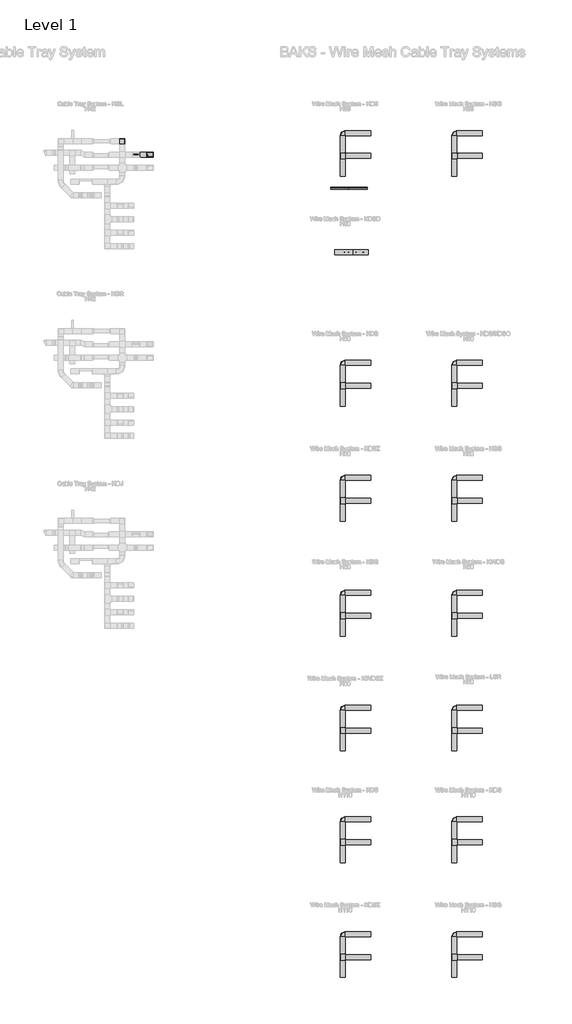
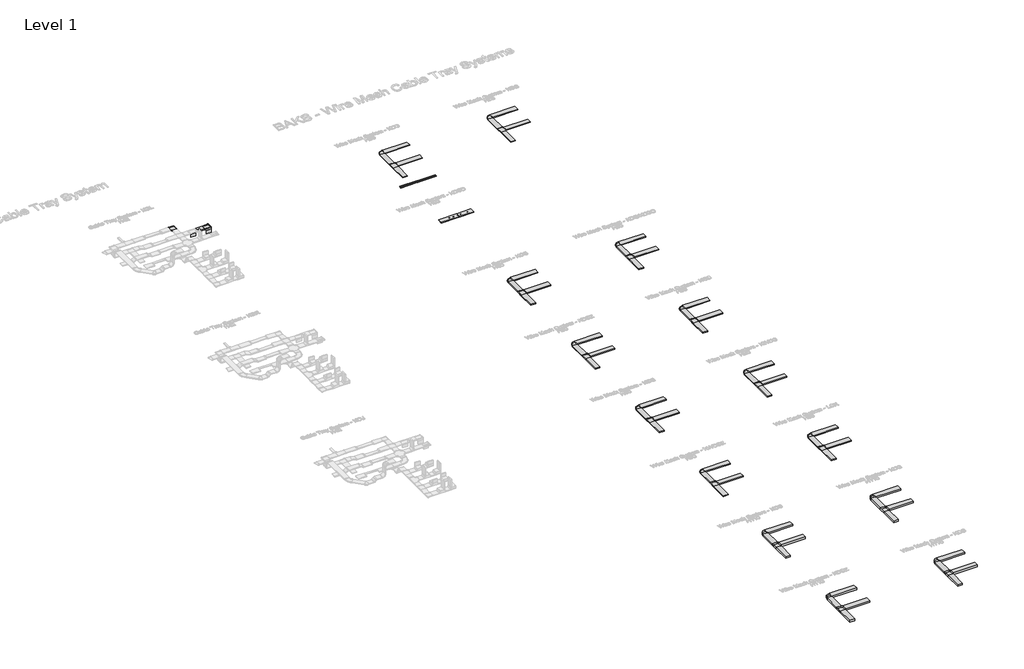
# One storey, part 8 of 32: 65 cable carrier segments, 38 cable carrier fittings.
"""IFC4 building model written with IfcOpenShell, lengths in millimetres."""

from ifc_helpers import new_model, si_unit, frame, origin, origin_with_axes, place, context, project, spatial, polyline, outline, extrude, transform, mapped, element, save
from components import cable_carrier_fitting_400b97e6, cable_carrier_fitting_717dd42d, cable_carrier_fitting_b6827417, cable_carrier_fitting_ce1f183e, cable_carrier_fitting_d664f731, cable_carrier_fitting_2209817d, cable_carrier_fitting_5924018d, cable_carrier_fitting_5b9ae738, cable_carrier_fitting_cf50b9aa, cable_carrier_fitting_433d2681, cable_carrier_fitting_14ea2eab, lzs35_h35_88049798, lzs50_h35_31d5a90a

model = new_model("IFC4")

# Units and contexts
model_context = context("Model", 3, world=origin())
ifc_project = project(units=[si_unit("LENGTHUNIT", "METRE", prefix="MILLI")], contexts=[model_context])

# Site, building, storey
site = spatial("IfcSite", under=ifc_project)
building = spatial("IfcBuilding", under=site)
storey = spatial("IfcBuildingStorey", under=building, Name="Level 1", Elevation=0.0)

# Cable carrier fittings
placement = place(None, origin())
cable_carrier_fitting_shape = cable_carrier_fitting_400b97e6(model_context)
element("IfcCableCarrierFitting", 1, ObjectType="BAKS_Vertical elbow left : KRLBJ_H42", at=placement, inside=storey, context=model_context, shape_type="MappedRepresentation", body=[
    mapped(cable_carrier_fitting_shape, transform((-6208.1670538, 68580.8714214, 0.0), x_axis=(1.0, 0.0, 0.0), y_axis=(0.0, 1.0, 0.0), z_axis=(0.0, 0.0, 1.0))),
])
cable_carrier_fitting_2_shape = cable_carrier_fitting_717dd42d(model_context)
element("IfcCableCarrierFitting", 2, ObjectType="BAKS_Horizontal bend : KKBL/KKMBL_H42", at=placement, inside=storey, context=model_context, shape_type="MappedRepresentation", body=[
    mapped(cable_carrier_fitting_2_shape, transform((-7643.1670538, 69380.8714214, 0.0), x_axis=(0.0, 1.0, 0.0), y_axis=(-1.0, 0.0, 0.0), z_axis=(0.0, 0.0, 1.0))),
])
cable_carrier_fitting_3_shape = cable_carrier_fitting_b6827417(model_context)
element("IfcCableCarrierFitting", 3, ObjectType="BAKS_Mesh horizontal bend : KKSZ_H35", at=placement, inside=storey, context=model_context, shape_type="MappedRepresentation", body=[
    mapped(cable_carrier_fitting_3_shape, transform((12269.4167945, 69870.1887189, 17.5), x_axis=(-1.0, 0.0, 0.0), y_axis=(0.0, -1.0, 0.0), z_axis=(0.0, 0.0, 1.0))),
])
element("IfcCableCarrierFitting", 4, ObjectType="BAKS_Mesh horizontal bend : KKSZ_H35", at=placement, inside=storey, context=model_context, shape_type="MappedRepresentation", body=[
    mapped(cable_carrier_fitting_3_shape, transform((5569.4167945, 69870.1887189, 17.5), x_axis=(-1.0, 0.0, 0.0), y_axis=(0.0, -1.0, 0.0), z_axis=(0.0, 0.0, 1.0))),
])
cable_carrier_fitting_4_shape = cable_carrier_fitting_ce1f183e(model_context)
element("IfcCableCarrierFitting", 5, ObjectType="BAKS_Mesh horizontal bend : KKSZ_H60", at=placement, inside=storey, context=model_context, shape_type="MappedRepresentation", body=[
    mapped(cable_carrier_fitting_4_shape, transform((5569.4167945, 56070.1887189, 30.0), x_axis=(-1.0, 0.0, 0.0), y_axis=(0.0, -1.0, 0.0), z_axis=(0.0, 0.0, 1.0))),
])
element("IfcCableCarrierFitting", 6, ObjectType="BAKS_Mesh horizontal bend : KKSZ_H60", at=placement, inside=storey, context=model_context, shape_type="MappedRepresentation", body=[
    mapped(cable_carrier_fitting_4_shape, transform((12269.4167945, 49170.1887189, 30.0), x_axis=(-1.0, 0.0, 0.0), y_axis=(0.0, -1.0, 0.0), z_axis=(0.0, 0.0, 1.0))),
])
element("IfcCableCarrierFitting", 7, ObjectType="BAKS_Mesh horizontal bend : KKSZ_H60", at=placement, inside=storey, context=model_context, shape_type="MappedRepresentation", body=[
    mapped(cable_carrier_fitting_4_shape, transform((5569.4167945, 42270.1887189, 30.0), x_axis=(-1.0, 0.0, 0.0), y_axis=(0.0, -1.0, 0.0), z_axis=(0.0, 0.0, 1.0))),
])
element("IfcCableCarrierFitting", 8, ObjectType="BAKS_Mesh horizontal bend : KKSZ_H60", at=placement, inside=storey, context=model_context, shape_type="MappedRepresentation", body=[
    mapped(cable_carrier_fitting_4_shape, transform((12269.4167945, 35370.1887189, 30.0), x_axis=(-1.0, 0.0, 0.0), y_axis=(0.0, -1.0, 0.0), z_axis=(0.0, 0.0, 1.0))),
])
element("IfcCableCarrierFitting", 9, ObjectType="BAKS_Mesh horizontal bend : KKSZ_H60", at=placement, inside=storey, context=model_context, shape_type="MappedRepresentation", body=[
    mapped(cable_carrier_fitting_4_shape, transform((5569.4167945, 35370.1887189, 30.0), x_axis=(-1.0, 0.0, 0.0), y_axis=(0.0, -1.0, 0.0), z_axis=(0.0, 0.0, 1.0))),
])
element("IfcCableCarrierFitting", 10, ObjectType="BAKS_Mesh horizontal bend : KKSZ_H60", at=placement, inside=storey, context=model_context, shape_type="MappedRepresentation", body=[
    mapped(cable_carrier_fitting_4_shape, transform((12269.4167945, 42270.1887189, 30.0), x_axis=(-1.0, 0.0, 0.0), y_axis=(0.0, -1.0, 0.0), z_axis=(0.0, 0.0, 1.0))),
])
element("IfcCableCarrierFitting", 11, ObjectType="BAKS_Mesh horizontal bend : KKSZ_H60", at=placement, inside=storey, context=model_context, shape_type="MappedRepresentation", body=[
    mapped(cable_carrier_fitting_4_shape, transform((5569.4167945, 49170.1887189, 30.0), x_axis=(-1.0, 0.0, 0.0), y_axis=(0.0, -1.0, 0.0), z_axis=(0.0, 0.0, 1.0))),
])
element("IfcCableCarrierFitting", 12, ObjectType="BAKS_Mesh horizontal bend : KKSZ_H60", at=placement, inside=storey, context=model_context, shape_type="MappedRepresentation", body=[
    mapped(cable_carrier_fitting_4_shape, transform((12269.4167945, 56070.1887189, 30.0), x_axis=(-1.0, 0.0, 0.0), y_axis=(0.0, -1.0, 0.0), z_axis=(0.0, 0.0, 1.0))),
])
cable_carrier_fitting_5_shape = cable_carrier_fitting_d664f731(model_context)
element("IfcCableCarrierFitting", 13, ObjectType="BAKS_Mesh horizontal bend : KKSZ_H110", at=placement, inside=storey, context=model_context, shape_type="MappedRepresentation", body=[
    mapped(cable_carrier_fitting_5_shape, transform((5569.4167945, 28670.1887189, 55.0), x_axis=(-1.0, 0.0, 0.0), y_axis=(0.0, -1.0, 0.0), z_axis=(0.0, 0.0, 1.0))),
])
element("IfcCableCarrierFitting", 14, ObjectType="BAKS_Mesh horizontal bend : KKSZ_H110", at=placement, inside=storey, context=model_context, shape_type="MappedRepresentation", body=[
    mapped(cable_carrier_fitting_5_shape, transform((12269.4167945, 28670.1887189, 55.0), x_axis=(-1.0, 0.0, 0.0), y_axis=(0.0, -1.0, 0.0), z_axis=(0.0, 0.0, 1.0))),
])
element("IfcCableCarrierFitting", 15, ObjectType="BAKS_Mesh horizontal bend : KKSZ_H110", at=placement, inside=storey, context=model_context, shape_type="MappedRepresentation", body=[
    mapped(cable_carrier_fitting_5_shape, transform((12269.4167945, 21770.1887189, 55.0), x_axis=(-1.0, 0.0, 0.0), y_axis=(0.0, -1.0, 0.0), z_axis=(0.0, 0.0, 1.0))),
])
element("IfcCableCarrierFitting", 16, ObjectType="BAKS_Mesh horizontal bend : KKSZ_H110", at=placement, inside=storey, context=model_context, shape_type="MappedRepresentation", body=[
    mapped(cable_carrier_fitting_5_shape, transform((5569.4167945, 21770.1887189, 55.0), x_axis=(-1.0, 0.0, 0.0), y_axis=(0.0, -1.0, 0.0), z_axis=(0.0, 0.0, 1.0))),
])
cable_carrier_fitting_6_shape = cable_carrier_fitting_2209817d(model_context)
element("IfcCableCarrierFitting", 17, ObjectType="BAKS_Mesh horizontal tee : TKSZ_H35", at=placement, inside=storey, context=model_context, shape_type="MappedRepresentation", body=[
    mapped(cable_carrier_fitting_6_shape, transform((5569.4167945, 68493.1012189, 17.5), x_axis=(0.0, 1.0, 0.0), y_axis=(-1.0, 0.0, 0.0), z_axis=(0.0, 0.0, 1.0))),
])
element("IfcCableCarrierFitting", 18, ObjectType="BAKS_Mesh horizontal tee : TKSZ_H35", at=placement, inside=storey, context=model_context, shape_type="MappedRepresentation", body=[
    mapped(cable_carrier_fitting_6_shape, transform((12269.4167945, 68493.1012189, 17.5), x_axis=(0.0, 1.0, 0.0), y_axis=(-1.0, 0.0, 0.0), z_axis=(0.0, 0.0, 1.0))),
])
cable_carrier_fitting_7_shape = cable_carrier_fitting_5924018d(model_context)
element("IfcCableCarrierFitting", 19, ObjectType="BAKS_Mesh horizontal tee : TKSZ_H60", at=placement, inside=storey, context=model_context, shape_type="MappedRepresentation", body=[
    mapped(cable_carrier_fitting_7_shape, transform((5569.4167945, 54693.1012189, 30.0), x_axis=(0.0, 1.0, 0.0), y_axis=(-1.0, 0.0, 0.0), z_axis=(0.0, 0.0, 1.0))),
])
element("IfcCableCarrierFitting", 20, ObjectType="BAKS_Mesh horizontal tee : TKSZ_H60", at=placement, inside=storey, context=model_context, shape_type="MappedRepresentation", body=[
    mapped(cable_carrier_fitting_7_shape, transform((12269.4167945, 54693.1012189, 30.0), x_axis=(0.0, 1.0, 0.0), y_axis=(-1.0, 0.0, 0.0), z_axis=(0.0, 0.0, 1.0))),
])
element("IfcCableCarrierFitting", 21, ObjectType="BAKS_Mesh horizontal tee : TKSZ_H60", at=placement, inside=storey, context=model_context, shape_type="MappedRepresentation", body=[
    mapped(cable_carrier_fitting_7_shape, transform((12269.4167945, 47793.1012189, 30.0), x_axis=(0.0, 1.0, 0.0), y_axis=(-1.0, 0.0, 0.0), z_axis=(0.0, 0.0, 1.0))),
])
element("IfcCableCarrierFitting", 22, ObjectType="BAKS_Mesh horizontal tee : TKSZ_H60", at=placement, inside=storey, context=model_context, shape_type="MappedRepresentation", body=[
    mapped(cable_carrier_fitting_7_shape, transform((5569.4167945, 47793.1012189, 30.0), x_axis=(0.0, 1.0, 0.0), y_axis=(-1.0, 0.0, 0.0), z_axis=(0.0, 0.0, 1.0))),
])
element("IfcCableCarrierFitting", 23, ObjectType="BAKS_Mesh horizontal tee : TKSZ_H60", at=placement, inside=storey, context=model_context, shape_type="MappedRepresentation", body=[
    mapped(cable_carrier_fitting_7_shape, transform((5569.4167945, 40893.1012189, 30.0), x_axis=(0.0, 1.0, 0.0), y_axis=(-1.0, 0.0, 0.0), z_axis=(0.0, 0.0, 1.0))),
])
element("IfcCableCarrierFitting", 24, ObjectType="BAKS_Mesh horizontal tee : TKSZ_H60", at=placement, inside=storey, context=model_context, shape_type="MappedRepresentation", body=[
    mapped(cable_carrier_fitting_7_shape, transform((12269.4167945, 40893.1012189, 30.0), x_axis=(0.0, 1.0, 0.0), y_axis=(-1.0, 0.0, 0.0), z_axis=(0.0, 0.0, 1.0))),
])
element("IfcCableCarrierFitting", 25, ObjectType="BAKS_Mesh horizontal tee : TKSZ_H60", at=placement, inside=storey, context=model_context, shape_type="MappedRepresentation", body=[
    mapped(cable_carrier_fitting_7_shape, transform((12269.4167945, 33993.1012189, 30.0), x_axis=(0.0, 1.0, 0.0), y_axis=(-1.0, 0.0, 0.0), z_axis=(0.0, 0.0, 1.0))),
])
element("IfcCableCarrierFitting", 26, ObjectType="BAKS_Mesh horizontal tee : TKSZ_H60", at=placement, inside=storey, context=model_context, shape_type="MappedRepresentation", body=[
    mapped(cable_carrier_fitting_7_shape, transform((5569.4167945, 33993.1012189, 30.0), x_axis=(0.0, 1.0, 0.0), y_axis=(-1.0, 0.0, 0.0), z_axis=(0.0, 0.0, 1.0))),
])
cable_carrier_fitting_8_shape = cable_carrier_fitting_5b9ae738(model_context)
element("IfcCableCarrierFitting", 27, ObjectType="BAKS_Mesh horizontal tee : TKSZ_H110", at=placement, inside=storey, context=model_context, shape_type="MappedRepresentation", body=[
    mapped(cable_carrier_fitting_8_shape, transform((5569.4167945, 27293.1012189, 55.0), x_axis=(0.0, 1.0, 0.0), y_axis=(-1.0, 0.0, 0.0), z_axis=(0.0, 0.0, 1.0))),
])
element("IfcCableCarrierFitting", 28, ObjectType="BAKS_Mesh horizontal tee : TKSZ_H110", at=placement, inside=storey, context=model_context, shape_type="MappedRepresentation", body=[
    mapped(cable_carrier_fitting_8_shape, transform((12269.4167945, 27293.1012189, 55.0), x_axis=(0.0, 1.0, 0.0), y_axis=(-1.0, 0.0, 0.0), z_axis=(0.0, 0.0, 1.0))),
])
element("IfcCableCarrierFitting", 29, ObjectType="BAKS_Mesh horizontal tee : TKSZ_H110", at=placement, inside=storey, context=model_context, shape_type="MappedRepresentation", body=[
    mapped(cable_carrier_fitting_8_shape, transform((12269.4167945, 20393.1012189, 55.0), x_axis=(0.0, 1.0, 0.0), y_axis=(-1.0, 0.0, 0.0), z_axis=(0.0, 0.0, 1.0))),
])
element("IfcCableCarrierFitting", 30, ObjectType="BAKS_Mesh horizontal tee : TKSZ_H110", at=placement, inside=storey, context=model_context, shape_type="MappedRepresentation", body=[
    mapped(cable_carrier_fitting_8_shape, transform((5569.4167945, 20393.1012189, 55.0), x_axis=(0.0, 1.0, 0.0), y_axis=(-1.0, 0.0, 0.0), z_axis=(0.0, 0.0, 1.0))),
])
cable_carrier_fitting_9_shape = cable_carrier_fitting_cf50b9aa(model_context)
element("IfcCableCarrierFitting", 31, ObjectType="BAKS_SUB_Mesh connector : LKDSC", at=placement, inside=storey, context=model_context, shape_type="MappedRepresentation", body=[
    mapped(cable_carrier_fitting_9_shape, transform((6209.557436, 62634.5444956, 2.25), x_axis=(-1.0, 0.0, 0.0), y_axis=(0.0, 1.0, 0.0), z_axis=(0.0, 0.0, -1.0))),
])
element("IfcCableCarrierFitting", 32, ObjectType="BAKS_SUB_Mesh connector : LKDSC", at=placement, inside=storey, context=model_context, shape_type="MappedRepresentation", body=[
    mapped(cable_carrier_fitting_9_shape, transform((6209.557436, 62784.5444956, 2.25), x_axis=(-1.0, 0.0, 0.0), y_axis=(0.0, 1.0, 0.0), z_axis=(0.0, 0.0, -1.0))),
])
cable_carrier_fitting_10_shape = cable_carrier_fitting_433d2681(model_context)
element("IfcCableCarrierFitting", 33, ObjectType="BAKS_Mesh ceiling hanger_UKDSPC : UKDSCP", at=placement, inside=storey, context=model_context, shape_type="MappedRepresentation", body=[
    mapped(cable_carrier_fitting_10_shape, transform((6812.6183275, 62709.5444956, 53.25), x_axis=(1.0, 0.0, 0.0), y_axis=(0.0, 1.0, 0.0), z_axis=(0.0, 0.0, 1.0))),
])
element("IfcCableCarrierFitting", 34, ObjectType="BAKS_Mesh ceiling hanger_UKDSPC : UKDSCP", at=placement, inside=storey, context=model_context, shape_type="MappedRepresentation", body=[
    mapped(cable_carrier_fitting_10_shape, transform((5689.547932, 62709.5444956, 53.25), x_axis=(1.0, 0.0, 0.0), y_axis=(0.0, 1.0, 0.0), z_axis=(0.0, 0.0, 1.0))),
])
cable_carrier_fitting_11_shape = cable_carrier_fitting_14ea2eab(model_context)
element("IfcCableCarrierFitting", 35, ObjectType="BAKS_Mesh ceiling hanger_UKDSC : LKDSC", at=placement, inside=storey, context=model_context, shape_type="MappedRepresentation", body=[
    mapped(cable_carrier_fitting_11_shape, transform((5934.0481079, 62709.5444956, 53.25), x_axis=(1.0, 0.0, 0.0), y_axis=(0.0, 1.0, 0.0), z_axis=(0.0, 0.0, 1.0))),
])
element("IfcCableCarrierFitting", 36, ObjectType="BAKS_Mesh ceiling hanger_UKDSC : LKDSC", at=placement, inside=storey, context=model_context, shape_type="MappedRepresentation", body=[
    mapped(cable_carrier_fitting_11_shape, transform((6378.0755942, 62709.5444956, 53.25), x_axis=(1.0, 0.0, 0.0), y_axis=(0.0, 1.0, 0.0), z_axis=(0.0, 0.0, 1.0))),
])
lzs35_h35_shape = lzs35_h35_88049798(model_context)
element("IfcCableCarrierFitting", 37, ObjectType="BAKS_Snap-in connector_LZS : LZS35_H35", at=placement, inside=storey, context=model_context, shape_type="MappedRepresentation", body=[
    mapped(lzs35_h35_shape, transform((5932.4364107, 66596.8037185, 17.5), x_axis=(-1.0, 0.0, 0.0), y_axis=(0.0, -1.0, 0.0), z_axis=(0.0, 0.0, 1.0))),
])
lzs50_h35_shape = lzs50_h35_31d5a90a(model_context)
element("IfcCableCarrierFitting", 38, ObjectType="BAKS_Snap-in connector_LZS : LZS50_H35", at=placement, inside=storey, context=model_context, shape_type="MappedRepresentation", body=[
    mapped(lzs50_h35_shape, transform((5932.6864107, 66516.8037185, 17.5), x_axis=(-1.0, 0.0, 0.0), y_axis=(0.0, -1.0, 0.0), z_axis=(0.0, 0.0, 1.0))),
])

# Cable carrier segments
element("IfcCableCarrierSegment", 39, ObjectType="BAKS - Cable tray H42 (KGL)", at=placement, inside=storey, context=model_context, shape_type="SweptSolid", body=[
    extrude(outline(polyline([(-6588.1670538, 68430.8714214), (-6588.1670538, 68730.8714214), (-6208.1670538, 68730.8714214), (-6208.1670538, 68430.8714214), (-6588.1670538, 68430.8714214)])), frame((0.0, 0.0, -21.0), z_axis=(0.0, 0.0, 1.0), x_axis=(1.0, 0.0, 0.0)), (0.0, 0.0, 1.0), 42.0),
])
element("IfcCableCarrierSegment", 40, ObjectType="BAKS - Wire mesh tray H35 (KDS)", at=placement, inside=storey, context=model_context, shape_type="SweptSolid", body=[
    extrude(outline(polyline([(5774.4167945, 68343.1012189), (5774.4167945, 68643.1012189), (7269.4167945, 68643.1012189), (7269.4167945, 68343.1012189), (5774.4167945, 68343.1012189)])), origin_with_axes(), (0.0, 0.0, 1.0), 35.0),
])
element("IfcCableCarrierSegment", 41, ObjectType="BAKS - Wire mesh tray H35 (KDS)", at=placement, inside=storey, context=model_context, shape_type="SweptSolid", body=[
    extrude(outline(polyline([(5419.4167945, 68288.1012189), (5719.4167945, 68288.1012189), (5719.4167945, 67270.1887189), (5419.4167945, 67270.1887189), (5419.4167945, 68288.1012189)])), origin_with_axes(), (0.0, 0.0, 1.0), 35.0),
])
element("IfcCableCarrierSegment", 42, ObjectType="BAKS - Wire mesh tray H50 (KDSD)", at=placement, inside=storey, context=model_context, shape_type="SweptSolid", body=[
    extrude(outline(polyline([(6194.557436, 62859.5444956), (6194.557436, 62559.5444956), (5109.557436, 62559.5444956), (5109.557436, 62859.5444956), (6194.557436, 62859.5444956)])), origin_with_axes(), (0.0, 0.0, 1.0), 50.0),
])
element("IfcCableCarrierSegment", 43, ObjectType="BAKS - Wire mesh tray H35 (KSG)", at=placement, inside=storey, context=model_context, shape_type="SweptSolid", body=[
    extrude(outline(polyline([(12423.5917945, 69720.1887189), (12423.5917945, 70020.1887189), (13969.4167945, 70020.1887189), (13969.4167945, 69720.1887189), (12423.5917945, 69720.1887189)])), origin_with_axes(), (0.0, 0.0, 1.0), 35.0),
])
element("IfcCableCarrierSegment", 44, ObjectType="BAKS - Wire mesh tray H35 (KSG)", at=placement, inside=storey, context=model_context, shape_type="SweptSolid", body=[
    extrude(outline(polyline([(12474.4167945, 68343.1012189), (12474.4167945, 68643.1012189), (13969.4167945, 68643.1012189), (13969.4167945, 68343.1012189), (12474.4167945, 68343.1012189)])), origin_with_axes(), (0.0, 0.0, 1.0), 35.0),
])
element("IfcCableCarrierSegment", 45, ObjectType="BAKS - Wire mesh tray H35 (KSG)", at=placement, inside=storey, context=model_context, shape_type="SweptSolid", body=[
    extrude(outline(polyline([(12119.4167945, 68288.1012189), (12419.4167945, 68288.1012189), (12419.4167945, 67270.1887189), (12119.4167945, 67270.1887189), (12119.4167945, 68288.1012189)])), origin_with_axes(), (0.0, 0.0, 1.0), 35.0),
])
element("IfcCableCarrierSegment", 46, ObjectType="BAKS - Wire mesh tray H60 (KCS)", at=placement, inside=storey, context=model_context, shape_type="SweptSolid", body=[
    extrude(outline(polyline([(5723.5917945, 55920.1887189), (5723.5917945, 56220.1887189), (7269.4167945, 56220.1887189), (7269.4167945, 55920.1887189), (5723.5917945, 55920.1887189)])), origin_with_axes(), (0.0, 0.0, 1.0), 60.0),
])
element("IfcCableCarrierSegment", 47, ObjectType="BAKS - Wire mesh tray H60 (KCS)", at=placement, inside=storey, context=model_context, shape_type="SweptSolid", body=[
    extrude(outline(polyline([(5774.4167945, 54543.1012189), (5774.4167945, 54843.1012189), (7269.4167945, 54843.1012189), (7269.4167945, 54543.1012189), (5774.4167945, 54543.1012189)])), origin_with_axes(), (0.0, 0.0, 1.0), 60.0),
])
element("IfcCableCarrierSegment", 48, ObjectType="BAKS - Wire mesh tray H60 (KCS)", at=placement, inside=storey, context=model_context, shape_type="SweptSolid", body=[
    extrude(outline(polyline([(5419.4167945, 54488.1012189), (5719.4167945, 54488.1012189), (5719.4167945, 53470.1887189), (5419.4167945, 53470.1887189), (5419.4167945, 54488.1012189)])), origin_with_axes(), (0.0, 0.0, 1.0), 60.0),
])
element("IfcCableCarrierSegment", 49, ObjectType="BAKS - Wire mesh tray H60 (KDS/KDSO)", at=placement, inside=storey, context=model_context, shape_type="SweptSolid", body=[
    extrude(outline(polyline([(12423.5917945, 55920.1887189), (12423.5917945, 56220.1887189), (13969.4167945, 56220.1887189), (13969.4167945, 55920.1887189), (12423.5917945, 55920.1887189)])), origin_with_axes(), (0.0, 0.0, 1.0), 60.0),
])
element("IfcCableCarrierSegment", 50, ObjectType="BAKS - Wire mesh tray H60 (KDS/KDSO)", at=placement, inside=storey, context=model_context, shape_type="SweptSolid", body=[
    extrude(outline(polyline([(12419.4167945, 54898.1012189), (12119.4167945, 54898.1012189), (12119.4167945, 55916.0137189), (12419.4167945, 55916.0137189), (12419.4167945, 54898.1012189)])), origin_with_axes(), (0.0, 0.0, 1.0), 60.0),
])
element("IfcCableCarrierSegment", 51, ObjectType="BAKS - Wire mesh tray H60 (KDS/KDSO)", at=placement, inside=storey, context=model_context, shape_type="SweptSolid", body=[
    extrude(outline(polyline([(12474.4167945, 54543.1012189), (12474.4167945, 54843.1012189), (13969.4167945, 54843.1012189), (13969.4167945, 54543.1012189), (12474.4167945, 54543.1012189)])), origin_with_axes(), (0.0, 0.0, 1.0), 60.0),
])
element("IfcCableCarrierSegment", 52, ObjectType="BAKS - Wire mesh tray H60 (KDSZ)", at=placement, inside=storey, context=model_context, shape_type="SweptSolid", body=[
    extrude(outline(polyline([(5723.5917945, 49020.1887189), (5723.5917945, 49320.1887189), (7269.4167945, 49320.1887189), (7269.4167945, 49020.1887189), (5723.5917945, 49020.1887189)])), origin_with_axes(), (0.0, 0.0, 1.0), 60.0),
])
element("IfcCableCarrierSegment", 53, ObjectType="BAKS - Wire mesh tray H60 (KDSZ)", at=placement, inside=storey, context=model_context, shape_type="SweptSolid", body=[
    extrude(outline(polyline([(5719.4167945, 47998.1012189), (5419.4167945, 47998.1012189), (5419.4167945, 49016.0137189), (5719.4167945, 49016.0137189), (5719.4167945, 47998.1012189)])), origin_with_axes(), (0.0, 0.0, 1.0), 60.0),
])
element("IfcCableCarrierSegment", 54, ObjectType="BAKS - Wire mesh tray H60 (KDSZ)", at=placement, inside=storey, context=model_context, shape_type="SweptSolid", body=[
    extrude(outline(polyline([(5774.4167945, 47643.1012189), (5774.4167945, 47943.1012189), (7269.4167945, 47943.1012189), (7269.4167945, 47643.1012189), (5774.4167945, 47643.1012189)])), origin_with_axes(), (0.0, 0.0, 1.0), 60.0),
])
element("IfcCableCarrierSegment", 55, ObjectType="BAKS - Wire mesh tray H60 (KGS)", at=placement, inside=storey, context=model_context, shape_type="SweptSolid", body=[
    extrude(outline(polyline([(12423.5917945, 49020.1887189), (12423.5917945, 49320.1887189), (13969.4167945, 49320.1887189), (13969.4167945, 49020.1887189), (12423.5917945, 49020.1887189)])), origin_with_axes(), (0.0, 0.0, 1.0), 60.0),
])
element("IfcCableCarrierSegment", 56, ObjectType="BAKS - Wire mesh tray H60 (KGS)", at=placement, inside=storey, context=model_context, shape_type="SweptSolid", body=[
    extrude(outline(polyline([(12474.4167945, 47643.1012189), (12474.4167945, 47943.1012189), (13969.4167945, 47943.1012189), (13969.4167945, 47643.1012189), (12474.4167945, 47643.1012189)])), origin_with_axes(), (0.0, 0.0, 1.0), 60.0),
])
element("IfcCableCarrierSegment", 57, ObjectType="BAKS - Wire mesh tray H60 (KGS)", at=placement, inside=storey, context=model_context, shape_type="SweptSolid", body=[
    extrude(outline(polyline([(12119.4167945, 47588.1012189), (12419.4167945, 47588.1012189), (12419.4167945, 46570.1887189), (12119.4167945, 46570.1887189), (12119.4167945, 47588.1012189)])), origin_with_axes(), (0.0, 0.0, 1.0), 60.0),
])
element("IfcCableCarrierSegment", 58, ObjectType="BAKS - Wire mesh tray H60 (KSG)", at=placement, inside=storey, context=model_context, shape_type="SweptSolid", body=[
    extrude(outline(polyline([(5723.5917945, 42120.1887189), (5723.5917945, 42420.1887189), (7269.4167945, 42420.1887189), (7269.4167945, 42120.1887189), (5723.5917945, 42120.1887189)])), origin_with_axes(), (0.0, 0.0, 1.0), 60.0),
])
element("IfcCableCarrierSegment", 59, ObjectType="BAKS - Wire mesh tray H60 (KSG)", at=placement, inside=storey, context=model_context, shape_type="SweptSolid", body=[
    extrude(outline(polyline([(5774.4167945, 40743.1012189), (5774.4167945, 41043.1012189), (7269.4167945, 41043.1012189), (7269.4167945, 40743.1012189), (5774.4167945, 40743.1012189)])), origin_with_axes(), (0.0, 0.0, 1.0), 60.0),
])
element("IfcCableCarrierSegment", 60, ObjectType="BAKS - Wire mesh tray H60 (KSG)", at=placement, inside=storey, context=model_context, shape_type="SweptSolid", body=[
    extrude(outline(polyline([(5419.4167945, 40688.1012189), (5719.4167945, 40688.1012189), (5719.4167945, 39670.1887189), (5419.4167945, 39670.1887189), (5419.4167945, 40688.1012189)])), origin_with_axes(), (0.0, 0.0, 1.0), 60.0),
])
element("IfcCableCarrierSegment", 61, ObjectType="BAKS - Wire mesh tray H60 (KWDS)", at=placement, inside=storey, context=model_context, shape_type="SweptSolid", body=[
    extrude(outline(polyline([(12423.5917945, 42120.1887189), (12423.5917945, 42420.1887189), (13969.4167945, 42420.1887189), (13969.4167945, 42120.1887189), (12423.5917945, 42120.1887189)])), origin_with_axes(), (0.0, 0.0, 1.0), 60.0),
])
element("IfcCableCarrierSegment", 62, ObjectType="BAKS - Wire mesh tray H60 (KWDS)", at=placement, inside=storey, context=model_context, shape_type="SweptSolid", body=[
    extrude(outline(polyline([(12419.4167945, 41098.1012189), (12119.4167945, 41098.1012189), (12119.4167945, 42116.0137189), (12419.4167945, 42116.0137189), (12419.4167945, 41098.1012189)])), origin_with_axes(), (0.0, 0.0, 1.0), 60.0),
])
element("IfcCableCarrierSegment", 63, ObjectType="BAKS - Wire mesh tray H60 (KWDS)", at=placement, inside=storey, context=model_context, shape_type="SweptSolid", body=[
    extrude(outline(polyline([(12474.4167945, 40743.1012189), (12474.4167945, 41043.1012189), (13969.4167945, 41043.1012189), (13969.4167945, 40743.1012189), (12474.4167945, 40743.1012189)])), origin_with_axes(), (0.0, 0.0, 1.0), 60.0),
])
element("IfcCableCarrierSegment", 64, ObjectType="BAKS - Wire mesh tray H60 (KWDSZ)", at=placement, inside=storey, context=model_context, shape_type="SweptSolid", body=[
    extrude(outline(polyline([(5723.5917945, 35220.1887189), (5723.5917945, 35520.1887189), (7269.4167945, 35520.1887189), (7269.4167945, 35220.1887189), (5723.5917945, 35220.1887189)])), origin_with_axes(), (0.0, 0.0, 1.0), 60.0),
])
element("IfcCableCarrierSegment", 65, ObjectType="BAKS - Wire mesh tray H60 (KWDSZ)", at=placement, inside=storey, context=model_context, shape_type="SweptSolid", body=[
    extrude(outline(polyline([(5774.4167945, 33843.1012189), (5774.4167945, 34143.1012189), (7269.4167945, 34143.1012189), (7269.4167945, 33843.1012189), (5774.4167945, 33843.1012189)])), origin_with_axes(), (0.0, 0.0, 1.0), 60.0),
])
element("IfcCableCarrierSegment", 66, ObjectType="BAKS - Wire mesh tray H60 (KWDSZ)", at=placement, inside=storey, context=model_context, shape_type="SweptSolid", body=[
    extrude(outline(polyline([(5419.4167945, 33788.1012189), (5719.4167945, 33788.1012189), (5719.4167945, 32770.1887189), (5419.4167945, 32770.1887189), (5419.4167945, 33788.1012189)])), origin_with_axes(), (0.0, 0.0, 1.0), 60.0),
])
element("IfcCableCarrierSegment", 67, ObjectType="BAKS - Wire mesh tray H60 (LSR)", at=placement, inside=storey, context=model_context, shape_type="SweptSolid", body=[
    extrude(outline(polyline([(12423.5917945, 35220.1887189), (12423.5917945, 35520.1887189), (13969.4167945, 35520.1887189), (13969.4167945, 35220.1887189), (12423.5917945, 35220.1887189)])), origin_with_axes(), (0.0, 0.0, 1.0), 60.0),
])
element("IfcCableCarrierSegment", 68, ObjectType="BAKS - Wire mesh tray H60 (LSR)", at=placement, inside=storey, context=model_context, shape_type="SweptSolid", body=[
    extrude(outline(polyline([(12474.4167945, 33843.1012189), (12474.4167945, 34143.1012189), (13969.4167945, 34143.1012189), (13969.4167945, 33843.1012189), (12474.4167945, 33843.1012189)])), origin_with_axes(), (0.0, 0.0, 1.0), 60.0),
])
element("IfcCableCarrierSegment", 69, ObjectType="BAKS - Wire mesh tray H60 (LSR)", at=placement, inside=storey, context=model_context, shape_type="SweptSolid", body=[
    extrude(outline(polyline([(12119.4167945, 33788.1012189), (12419.4167945, 33788.1012189), (12419.4167945, 32770.1887189), (12119.4167945, 32770.1887189), (12119.4167945, 33788.1012189)])), origin_with_axes(), (0.0, 0.0, 1.0), 60.0),
])
element("IfcCableCarrierSegment", 70, ObjectType="BAKS - Wire mesh tray H110 (KCS)", at=placement, inside=storey, context=model_context, shape_type="SweptSolid", body=[
    extrude(outline(polyline([(5723.5917945, 28520.1887189), (5723.5917945, 28820.1887189), (7269.4167945, 28820.1887189), (7269.4167945, 28520.1887189), (5723.5917945, 28520.1887189)])), origin_with_axes(), (0.0, 0.0, 1.0), 110.0),
])
element("IfcCableCarrierSegment", 71, ObjectType="BAKS - Wire mesh tray H110 (KCS)", at=placement, inside=storey, context=model_context, shape_type="SweptSolid", body=[
    extrude(outline(polyline([(5774.4167945, 27143.1012189), (5774.4167945, 27443.1012189), (7269.4167945, 27443.1012189), (7269.4167945, 27143.1012189), (5774.4167945, 27143.1012189)])), origin_with_axes(), (0.0, 0.0, 1.0), 110.0),
])
element("IfcCableCarrierSegment", 72, ObjectType="BAKS - Wire mesh tray H110 (KCS)", at=placement, inside=storey, context=model_context, shape_type="SweptSolid", body=[
    extrude(outline(polyline([(5419.4167945, 27088.1012189), (5719.4167945, 27088.1012189), (5719.4167945, 26070.1887189), (5419.4167945, 26070.1887189), (5419.4167945, 27088.1012189)])), origin_with_axes(), (0.0, 0.0, 1.0), 110.0),
])
element("IfcCableCarrierSegment", 73, ObjectType="BAKS - Wire mesh tray H110 (KDS)", at=placement, inside=storey, context=model_context, shape_type="SweptSolid", body=[
    extrude(outline(polyline([(12423.5917945, 28520.1887189), (12423.5917945, 28820.1887189), (13969.4167945, 28820.1887189), (13969.4167945, 28520.1887189), (12423.5917945, 28520.1887189)])), origin_with_axes(), (0.0, 0.0, 1.0), 110.0),
])
element("IfcCableCarrierSegment", 74, ObjectType="BAKS - Wire mesh tray H110 (KDS)", at=placement, inside=storey, context=model_context, shape_type="SweptSolid", body=[
    extrude(outline(polyline([(12419.4167945, 27498.1012189), (12119.4167945, 27498.1012189), (12119.4167945, 28516.0137189), (12419.4167945, 28516.0137189), (12419.4167945, 27498.1012189)])), origin_with_axes(), (0.0, 0.0, 1.0), 110.0),
])
element("IfcCableCarrierSegment", 75, ObjectType="BAKS - Wire mesh tray H110 (KDS)", at=placement, inside=storey, context=model_context, shape_type="SweptSolid", body=[
    extrude(outline(polyline([(12474.4167945, 27143.1012189), (12474.4167945, 27443.1012189), (13969.4167945, 27443.1012189), (13969.4167945, 27143.1012189), (12474.4167945, 27143.1012189)])), origin_with_axes(), (0.0, 0.0, 1.0), 110.0),
])
element("IfcCableCarrierSegment", 76, ObjectType="BAKS - Wire mesh tray H110 (KDSZ)", at=placement, inside=storey, context=model_context, shape_type="SweptSolid", body=[
    extrude(outline(polyline([(5723.5917945, 21620.1887189), (5723.5917945, 21920.1887189), (7269.4167945, 21920.1887189), (7269.4167945, 21620.1887189), (5723.5917945, 21620.1887189)])), origin_with_axes(), (0.0, 0.0, 1.0), 110.0),
])
element("IfcCableCarrierSegment", 77, ObjectType="BAKS - Wire mesh tray H110 (KDSZ)", at=placement, inside=storey, context=model_context, shape_type="SweptSolid", body=[
    extrude(outline(polyline([(5719.4167945, 20598.1012189), (5419.4167945, 20598.1012189), (5419.4167945, 21616.0137189), (5719.4167945, 21616.0137189), (5719.4167945, 20598.1012189)])), origin_with_axes(), (0.0, 0.0, 1.0), 110.0),
])
element("IfcCableCarrierSegment", 78, ObjectType="BAKS - Wire mesh tray H110 (KDSZ)", at=placement, inside=storey, context=model_context, shape_type="SweptSolid", body=[
    extrude(outline(polyline([(5774.4167945, 20243.1012189), (5774.4167945, 20543.1012189), (7269.4167945, 20543.1012189), (7269.4167945, 20243.1012189), (5774.4167945, 20243.1012189)])), origin_with_axes(), (0.0, 0.0, 1.0), 110.0),
])
element("IfcCableCarrierSegment", 79, ObjectType="BAKS - Wire mesh tray H110 (KSG)", at=placement, inside=storey, context=model_context, shape_type="SweptSolid", body=[
    extrude(outline(polyline([(12423.5917945, 21620.1887189), (12423.5917945, 21920.1887189), (13969.4167945, 21920.1887189), (13969.4167945, 21620.1887189), (12423.5917945, 21620.1887189)])), origin_with_axes(), (0.0, 0.0, 1.0), 110.0),
])
element("IfcCableCarrierSegment", 80, ObjectType="BAKS - Wire mesh tray H110 (KSG)", at=placement, inside=storey, context=model_context, shape_type="SweptSolid", body=[
    extrude(outline(polyline([(12474.4167945, 20243.1012189), (12474.4167945, 20543.1012189), (13969.4167945, 20543.1012189), (13969.4167945, 20243.1012189), (12474.4167945, 20243.1012189)])), origin_with_axes(), (0.0, 0.0, 1.0), 110.0),
])
element("IfcCableCarrierSegment", 81, ObjectType="BAKS - Wire mesh tray H110 (KSG)", at=placement, inside=storey, context=model_context, shape_type="SweptSolid", body=[
    extrude(outline(polyline([(12119.4167945, 20188.1012189), (12419.4167945, 20188.1012189), (12419.4167945, 19170.1887189), (12119.4167945, 19170.1887189), (12119.4167945, 20188.1012189)])), origin_with_axes(), (0.0, 0.0, 1.0), 110.0),
])
element("IfcCableCarrierSegment", 82, ObjectType="BAKS - Wire mesh tray H35 (KDS)", at=placement, inside=storey, context=model_context, shape_type="SweptSolid", body=[
    extrude(outline(polyline([(5419.4167945, 69716.0137189), (5719.4167945, 69716.0137189), (5719.4167945, 68698.1012189), (5419.4167945, 68698.1012189), (5419.4167945, 69716.0137189)])), origin_with_axes(), (0.0, 0.0, 1.0), 35.0),
])
element("IfcCableCarrierSegment", 83, ObjectType="BAKS - Wire mesh tray H35 (KSG)", at=placement, inside=storey, context=model_context, shape_type="SweptSolid", body=[
    extrude(outline(polyline([(12119.4167945, 69716.0137189), (12419.4167945, 69716.0137189), (12419.4167945, 68698.1012189), (12119.4167945, 68698.1012189), (12119.4167945, 69716.0137189)])), origin_with_axes(), (0.0, 0.0, 1.0), 35.0),
])
element("IfcCableCarrierSegment", 84, ObjectType="BAKS - Wire mesh tray H60 (KCS)", at=placement, inside=storey, context=model_context, shape_type="SweptSolid", body=[
    extrude(outline(polyline([(5419.4167945, 55916.0137189), (5719.4167945, 55916.0137189), (5719.4167945, 54898.1012189), (5419.4167945, 54898.1012189), (5419.4167945, 55916.0137189)])), origin_with_axes(), (0.0, 0.0, 1.0), 60.0),
])
element("IfcCableCarrierSegment", 85, ObjectType="BAKS - Wire mesh tray H60 (KDS/KDSO)", at=placement, inside=storey, context=model_context, shape_type="SweptSolid", body=[
    extrude(outline(polyline([(12419.4167945, 53470.1887189), (12119.4167945, 53470.1887189), (12119.4167945, 54488.1012189), (12419.4167945, 54488.1012189), (12419.4167945, 53470.1887189)])), origin_with_axes(), (0.0, 0.0, 1.0), 60.0),
])
element("IfcCableCarrierSegment", 86, ObjectType="BAKS - Wire mesh tray H60 (KGS)", at=placement, inside=storey, context=model_context, shape_type="SweptSolid", body=[
    extrude(outline(polyline([(12119.4167945, 49016.0137189), (12419.4167945, 49016.0137189), (12419.4167945, 47998.1012189), (12119.4167945, 47998.1012189), (12119.4167945, 49016.0137189)])), origin_with_axes(), (0.0, 0.0, 1.0), 60.0),
])
element("IfcCableCarrierSegment", 87, ObjectType="BAKS - Wire mesh tray H60 (KDSZ)", at=placement, inside=storey, context=model_context, shape_type="SweptSolid", body=[
    extrude(outline(polyline([(5719.4167945, 46570.1887189), (5419.4167945, 46570.1887189), (5419.4167945, 47588.1012189), (5719.4167945, 47588.1012189), (5719.4167945, 46570.1887189)])), origin_with_axes(), (0.0, 0.0, 1.0), 60.0),
])
element("IfcCableCarrierSegment", 88, ObjectType="BAKS - Wire mesh tray H60 (KSG)", at=placement, inside=storey, context=model_context, shape_type="SweptSolid", body=[
    extrude(outline(polyline([(5419.4167945, 42116.0137189), (5719.4167945, 42116.0137189), (5719.4167945, 41098.1012189), (5419.4167945, 41098.1012189), (5419.4167945, 42116.0137189)])), origin_with_axes(), (0.0, 0.0, 1.0), 60.0),
])
element("IfcCableCarrierSegment", 89, ObjectType="BAKS - Wire mesh tray H60 (KWDS)", at=placement, inside=storey, context=model_context, shape_type="SweptSolid", body=[
    extrude(outline(polyline([(12419.4167945, 39670.1887189), (12119.4167945, 39670.1887189), (12119.4167945, 40688.1012189), (12419.4167945, 40688.1012189), (12419.4167945, 39670.1887189)])), origin_with_axes(), (0.0, 0.0, 1.0), 60.0),
])
element("IfcCableCarrierSegment", 90, ObjectType="BAKS - Wire mesh tray H60 (LSR)", at=placement, inside=storey, context=model_context, shape_type="SweptSolid", body=[
    extrude(outline(polyline([(12119.4167945, 35216.0137189), (12419.4167945, 35216.0137189), (12419.4167945, 34198.1012189), (12119.4167945, 34198.1012189), (12119.4167945, 35216.0137189)])), origin_with_axes(), (0.0, 0.0, 1.0), 60.0),
])
element("IfcCableCarrierSegment", 91, ObjectType="BAKS - Wire mesh tray H60 (KWDSZ)", at=placement, inside=storey, context=model_context, shape_type="SweptSolid", body=[
    extrude(outline(polyline([(5419.4167945, 35216.0137189), (5719.4167945, 35216.0137189), (5719.4167945, 34198.1012189), (5419.4167945, 34198.1012189), (5419.4167945, 35216.0137189)])), origin_with_axes(), (0.0, 0.0, 1.0), 60.0),
])
element("IfcCableCarrierSegment", 92, ObjectType="BAKS - Wire mesh tray H110 (KCS)", at=placement, inside=storey, context=model_context, shape_type="SweptSolid", body=[
    extrude(outline(polyline([(5419.4167945, 28516.0137189), (5719.4167945, 28516.0137189), (5719.4167945, 27498.1012189), (5419.4167945, 27498.1012189), (5419.4167945, 28516.0137189)])), origin_with_axes(), (0.0, 0.0, 1.0), 110.0),
])
element("IfcCableCarrierSegment", 93, ObjectType="BAKS - Wire mesh tray H110 (KDS)", at=placement, inside=storey, context=model_context, shape_type="SweptSolid", body=[
    extrude(outline(polyline([(12419.4167945, 26070.1887189), (12119.4167945, 26070.1887189), (12119.4167945, 27088.1012189), (12419.4167945, 27088.1012189), (12419.4167945, 26070.1887189)])), origin_with_axes(), (0.0, 0.0, 1.0), 110.0),
])
element("IfcCableCarrierSegment", 94, ObjectType="BAKS - Wire mesh tray H110 (KSG)", at=placement, inside=storey, context=model_context, shape_type="SweptSolid", body=[
    extrude(outline(polyline([(12119.4167945, 21616.0137189), (12419.4167945, 21616.0137189), (12419.4167945, 20598.1012189), (12119.4167945, 20598.1012189), (12119.4167945, 21616.0137189)])), origin_with_axes(), (0.0, 0.0, 1.0), 110.0),
])
element("IfcCableCarrierSegment", 95, ObjectType="BAKS - Wire mesh tray H110 (KDSZ)", at=placement, inside=storey, context=model_context, shape_type="SweptSolid", body=[
    extrude(outline(polyline([(5719.4167945, 19170.1887189), (5419.4167945, 19170.1887189), (5419.4167945, 20188.1012189), (5719.4167945, 20188.1012189), (5719.4167945, 19170.1887189)])), origin_with_axes(), (0.0, 0.0, 1.0), 110.0),
])
element("IfcCableCarrierSegment", 96, ObjectType="BAKS - Wire mesh tray H35 (KDS)", at=placement, inside=storey, context=model_context, shape_type="SweptSolid", body=[
    extrude(outline(polyline([(7269.4167945, 70020.1887189), (7269.4167945, 69720.1887189), (5723.5917945, 69720.1887189), (5723.5917945, 70020.1887189), (7269.4167945, 70020.1887189)])), origin_with_axes(), (0.0, 0.0, 1.0), 35.0),
])
element("IfcCableCarrierSegment", 97, ObjectType="BAKS - Wire mesh tray H50 (KDSD)", at=placement, inside=storey, context=model_context, shape_type="SweptSolid", body=[
    extrude(outline(polyline([(7109.557436, 62859.5444956), (7109.557436, 62559.5444956), (6224.557436, 62559.5444956), (6224.557436, 62859.5444956), (7109.557436, 62859.5444956)])), origin_with_axes(), (0.0, 0.0, 1.0), 50.0),
])
element("IfcCableCarrierSegment", 98, ObjectType="BAKS - Wire mesh tray H35 (KDS)", at=placement, inside=storey, context=model_context, shape_type="SweptSolid", body=[
    extrude(outline(polyline([(5942.9364107, 66579.3037185), (5942.9364107, 66614.3037185), (7063.9674908, 66614.3037185), (7063.9674908, 66579.3037185), (5942.9364107, 66579.3037185)])), origin_with_axes(), (0.0, 0.0, 1.0), 35.0),
])
element("IfcCableCarrierSegment", 99, ObjectType="BAKS - Wire mesh tray H35 (KDS)", at=placement, inside=storey, context=model_context, shape_type="SweptSolid", body=[
    extrude(outline(polyline([(4863.9674908, 66579.3037185), (4863.9674908, 66614.3037185), (5920.9364107, 66614.3037185), (5920.9364107, 66579.3037185), (4863.9674908, 66579.3037185)])), origin_with_axes(), (0.0, 0.0, 1.0), 35.0),
])
element("IfcCableCarrierSegment", 100, ObjectType="BAKS - Wire mesh tray H35 (KDS)", at=placement, inside=storey, context=model_context, shape_type="SweptSolid", body=[
    extrude(outline(polyline([(5943.1864107, 66491.8037185), (5943.1864107, 66541.8037185), (7063.9674908, 66541.8037185), (7063.9674908, 66491.8037185), (5943.1864107, 66491.8037185)])), origin_with_axes(), (0.0, 0.0, 1.0), 35.0),
])
element("IfcCableCarrierSegment", 101, ObjectType="BAKS - Wire mesh tray H35 (KDS)", at=placement, inside=storey, context=model_context, shape_type="SweptSolid", body=[
    extrude(outline(polyline([(4863.9674908, 66491.8037185), (4863.9674908, 66541.8037185), (5921.1864107, 66541.8037185), (5921.1864107, 66491.8037185), (4863.9674908, 66491.8037185)])), origin_with_axes(), (0.0, 0.0, 1.0), 35.0),
])
element("IfcCableCarrierSegment", 102, ObjectType="BAKS - Cable tray H42 (KGL)", at=placement, inside=storey, context=model_context, shape_type="SweptSolid", body=[
    extrude(outline(polyline([(-6988.1670538, 68601.8714214), (-6688.1670538, 68601.8714214), (-6688.1670538, 68559.8714214), (-6988.1670538, 68559.8714214), (-6988.1670538, 68601.8714214)])), frame((0.0, 0.0, -330.7997464), z_axis=(0.0, 0.0, 1.0), x_axis=(1.0, 0.0, 0.0)), (0.0, 0.0, 1.0), 209.7997464),
])
element("IfcCableCarrierSegment", 103, ObjectType="BAKS - Cable tray H42 (KGL)", at=placement, inside=storey, context=model_context, shape_type="SweptSolid", body=[
    extrude(outline(polyline([(-5798.1670538, 68430.8714214), (-6098.1670538, 68430.8714214), (-6098.1670538, 68472.8714214), (-5798.1670538, 68472.8714214), (-5798.1670538, 68430.8714214)])), frame((0.0, 0.0, -330.7997464), z_axis=(0.0, 0.0, 1.0), x_axis=(1.0, 0.0, 0.0)), (0.0, 0.0, 1.0), 209.7997464),
])

save(model, "model.ifc")
